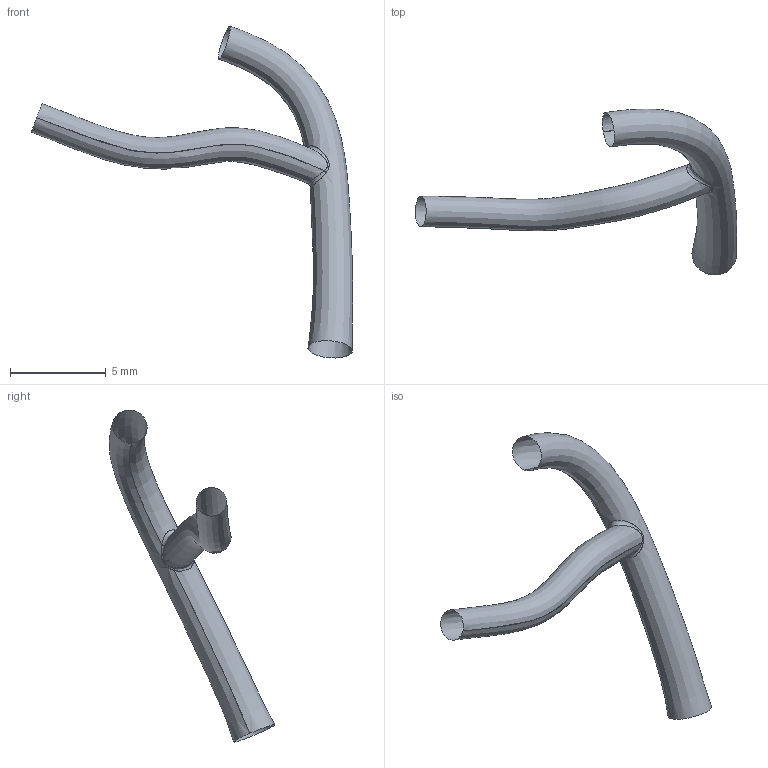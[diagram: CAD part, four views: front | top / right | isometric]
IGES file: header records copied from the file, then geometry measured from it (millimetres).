
Global section: file name: C:\Documents and Settings\Administrator\Desktop\FDA Bifurcation win\RawData_for_IGES\HRCA_Data\20000201.093459\IGES\20000201.093459.PDA.BIFUR.ES.igs; native system: Rhinoceros ( May 19 2006 ); preprocessor: Trout Lake IGES 012 May 19 2006; date: 100728.200618; units: centimetre
Bounding box: 16.78 x 8.64 x 17.34 mm (x, y, z)
Surface area: 203.7 mm2 (no closed solid volume)
Topology: 0 solids, 0 shells, 5 faces, 45 edges, 42 vertices
Faces by surface type: bspline 5
